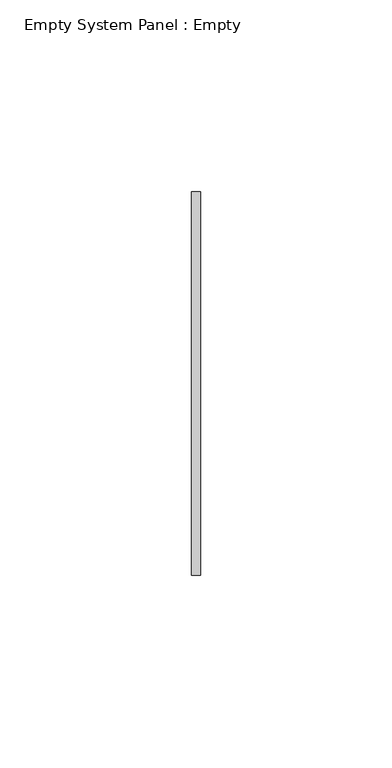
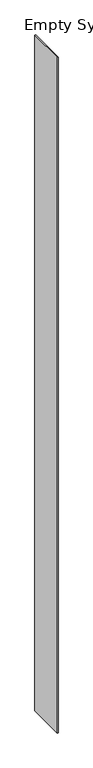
"""IFC4 building model written with IfcOpenShell, lengths in millimetres: plate geometry, Empty System Panel : Empty."""

from ifc_helpers import new_model, si_unit, origin, origin_with_axes, place, context, project, spatial, polyline, outline, extrude, source, transform, mapped, element, save


def empty_system_panel_empty_ec333ed9(model_context):
    return source(origin(), model_context, "Body", "SweptSolid", [
        extrude(outline(polyline([(1.1783405, -150.0), (-1.1783405, -150.0), (-1.1783405, -50.0), (1.1783405, -50.0), (1.1783405, -150.0)])), origin_with_axes(), (0.0, 0.0, 1.0), 1852.0),
    ])


if __name__ == "__main__":
    model = new_model("IFC4")
    model_context = context("Model", 3, world=origin())
    ifc_project = project(units=[si_unit("LENGTHUNIT", "METRE", prefix="MILLI")], contexts=[model_context])
    site = spatial("IfcSite", under=ifc_project)
    building = spatial("IfcBuilding", under=site)
    placement = place(None, origin())
    empty_system_panel_empty_shape = empty_system_panel_empty_ec333ed9(model_context)
    element("IfcPlate", 1, ObjectType="Empty System Panel : Empty", at=placement, inside=building, context=model_context, shape_type="MappedRepresentation", body=[
        mapped(empty_system_panel_empty_shape, transform((0.0, 0.0, 0.0), x_axis=(1.0, 0.0, 0.0), y_axis=(0.0, 1.0, 0.0), z_axis=(0.0, 0.0, 1.0))),
    ])
    save(model, "model.ifc")
